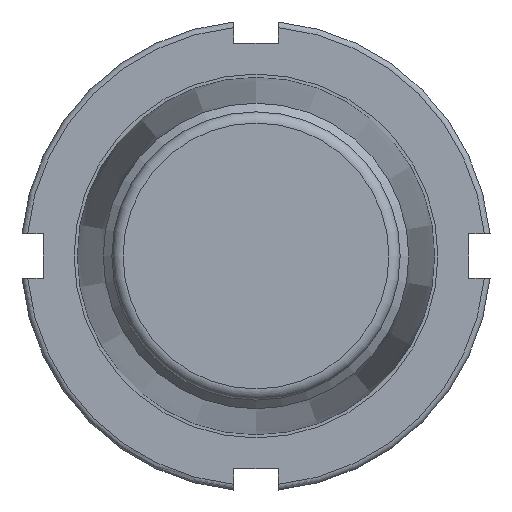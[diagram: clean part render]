
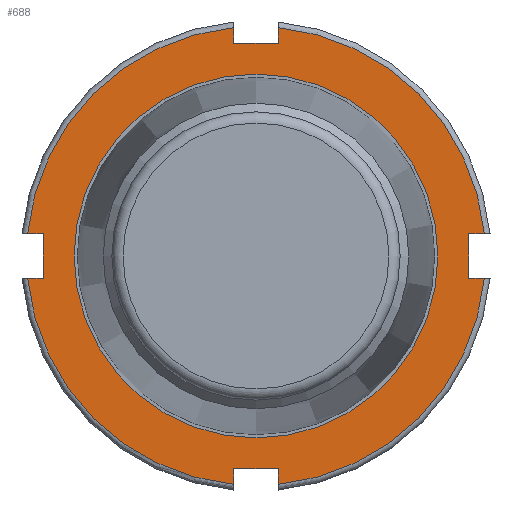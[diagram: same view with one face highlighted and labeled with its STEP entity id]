
A CAD part, front view. The second image highlights one B-rep face of the part: STEP entity #688.
In plain terms, the highlighted planar face has unit normal (0, -1, 0).
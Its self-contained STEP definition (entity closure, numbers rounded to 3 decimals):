
#76=FACE_BOUND('',#153,.T.);
#90=PLANE('',#761);
#112=FACE_OUTER_BOUND('',#152,.T.);
#152=EDGE_LOOP('',(#543,#544,#545,#546,#547,#548,#549,#550,#551,#552,#553,
#554,#555,#556,#557,#558));
#153=EDGE_LOOP('',(#559));
#184=LINE('',#1038,#233);
#188=LINE('',#1091,#237);
#191=LINE('',#1095,#240);
#194=LINE('',#1103,#243);
#198=LINE('',#1156,#247);
#201=LINE('',#1160,#250);
#204=LINE('',#1168,#253);
#208=LINE('',#1221,#257);
#211=LINE('',#1225,#260);
#212=LINE('',#1232,#261);
#213=LINE('',#1234,#262);
#214=LINE('',#1236,#263);
#233=VECTOR('',#851,10.);
#237=VECTOR('',#857,10.);
#240=VECTOR('',#862,10.);
#243=VECTOR('',#867,10.);
#247=VECTOR('',#873,10.);
#250=VECTOR('',#878,10.);
#253=VECTOR('',#883,10.);
#257=VECTOR('',#889,10.);
#260=VECTOR('',#894,10.);
#261=VECTOR('',#903,10.);
#262=VECTOR('',#904,10.);
#263=VECTOR('',#905,10.);
#287=CIRCLE('',#762,41.);
#288=CIRCLE('',#763,41.);
#289=CIRCLE('',#764,41.);
#290=CIRCLE('',#765,41.);
#291=CIRCLE('',#766,32.5);
#320=VERTEX_POINT('',#1035);
#321=VERTEX_POINT('',#1037);
#328=VERTEX_POINT('',#1079);
#329=VERTEX_POINT('',#1090);
#332=VERTEX_POINT('',#1100);
#333=VERTEX_POINT('',#1102);
#340=VERTEX_POINT('',#1144);
#341=VERTEX_POINT('',#1155);
#344=VERTEX_POINT('',#1165);
#345=VERTEX_POINT('',#1167);
#352=VERTEX_POINT('',#1209);
#353=VERTEX_POINT('',#1220);
#354=VERTEX_POINT('',#1229);
#355=VERTEX_POINT('',#1231);
#356=VERTEX_POINT('',#1233);
#357=VERTEX_POINT('',#1235);
#358=VERTEX_POINT('',#1238);
#389=EDGE_CURVE('',#321,#320,#184,.T.);
#397=EDGE_CURVE('',#329,#328,#188,.T.);
#400=EDGE_CURVE('',#320,#329,#191,.T.);
#403=EDGE_CURVE('',#333,#332,#194,.T.);
#411=EDGE_CURVE('',#341,#340,#198,.T.);
#414=EDGE_CURVE('',#332,#341,#201,.T.);
#417=EDGE_CURVE('',#345,#344,#204,.T.);
#425=EDGE_CURVE('',#353,#352,#208,.T.);
#428=EDGE_CURVE('',#344,#353,#211,.T.);
#429=EDGE_CURVE('',#333,#328,#287,.T.);
#430=EDGE_CURVE('',#345,#340,#288,.T.);
#431=EDGE_CURVE('',#354,#352,#289,.T.);
#432=EDGE_CURVE('',#354,#355,#212,.T.);
#433=EDGE_CURVE('',#355,#356,#213,.T.);
#434=EDGE_CURVE('',#356,#357,#214,.T.);
#435=EDGE_CURVE('',#321,#357,#290,.T.);
#436=EDGE_CURVE('',#358,#358,#291,.T.);
#543=ORIENTED_EDGE('',*,*,#389,.T.);
#544=ORIENTED_EDGE('',*,*,#400,.T.);
#545=ORIENTED_EDGE('',*,*,#397,.T.);
#546=ORIENTED_EDGE('',*,*,#429,.F.);
#547=ORIENTED_EDGE('',*,*,#403,.T.);
#548=ORIENTED_EDGE('',*,*,#414,.T.);
#549=ORIENTED_EDGE('',*,*,#411,.T.);
#550=ORIENTED_EDGE('',*,*,#430,.F.);
#551=ORIENTED_EDGE('',*,*,#417,.T.);
#552=ORIENTED_EDGE('',*,*,#428,.T.);
#553=ORIENTED_EDGE('',*,*,#425,.T.);
#554=ORIENTED_EDGE('',*,*,#431,.F.);
#555=ORIENTED_EDGE('',*,*,#432,.T.);
#556=ORIENTED_EDGE('',*,*,#433,.T.);
#557=ORIENTED_EDGE('',*,*,#434,.T.);
#558=ORIENTED_EDGE('',*,*,#435,.F.);
#559=ORIENTED_EDGE('',*,*,#436,.T.);
#688=ADVANCED_FACE('',(#112,#76),#90,.T.);
#761=AXIS2_PLACEMENT_3D('',#1226,#895,#896);
#762=AXIS2_PLACEMENT_3D('',#1227,#897,#898);
#763=AXIS2_PLACEMENT_3D('',#1228,#899,#900);
#764=AXIS2_PLACEMENT_3D('',#1230,#901,#902);
#765=AXIS2_PLACEMENT_3D('',#1237,#906,#907);
#766=AXIS2_PLACEMENT_3D('',#1239,#908,#909);
#851=DIRECTION('',(1.,0.,0.));
#857=DIRECTION('',(-1.,0.,0.));
#862=DIRECTION('',(0.,0.,-1.));
#867=DIRECTION('',(0.,0.,1.));
#873=DIRECTION('',(0.,0.,-1.));
#878=DIRECTION('',(1.,0.,0.));
#883=DIRECTION('',(-1.,0.,0.));
#889=DIRECTION('',(1.,0.,0.));
#894=DIRECTION('',(0.,0.,1.));
#895=DIRECTION('center_axis',(0.,-1.,0.));
#896=DIRECTION('ref_axis',(0.,0.,-1.));
#897=DIRECTION('center_axis',(0.,1.,0.));
#898=DIRECTION('ref_axis',(0.,0.,-1.));
#899=DIRECTION('center_axis',(0.,1.,0.));
#900=DIRECTION('ref_axis',(0.,0.,-1.));
#901=DIRECTION('center_axis',(0.,1.,0.));
#902=DIRECTION('ref_axis',(0.,0.,-1.));
#903=DIRECTION('',(0.,0.,-1.));
#904=DIRECTION('',(-1.,0.,0.));
#905=DIRECTION('',(0.,0.,1.));
#906=DIRECTION('center_axis',(0.,1.,0.));
#907=DIRECTION('ref_axis',(0.,0.,-1.));
#908=DIRECTION('center_axis',(0.,1.,0.));
#909=DIRECTION('ref_axis',(1.,0.,0.));
#1035=CARTESIAN_POINT('',(-38.,192.,4.));
#1037=CARTESIAN_POINT('',(-40.804,192.,4.));
#1038=CARTESIAN_POINT('',(-20.905,192.,4.));
#1079=CARTESIAN_POINT('',(-40.804,192.,-4.));
#1090=CARTESIAN_POINT('',(-38.,192.,-4.));
#1091=CARTESIAN_POINT('',(-19.,192.,-4.));
#1095=CARTESIAN_POINT('',(-38.,192.,23.));
#1100=CARTESIAN_POINT('',(-4.,192.,-38.));
#1102=CARTESIAN_POINT('',(-4.,192.,-40.804));
#1103=CARTESIAN_POINT('',(-4.,192.,0.095));
#1144=CARTESIAN_POINT('',(4.,192.,-40.804));
#1155=CARTESIAN_POINT('',(4.,192.,-38.));
#1156=CARTESIAN_POINT('',(4.,192.,2.));
#1160=CARTESIAN_POINT('',(-2.,192.,-38.));
#1165=CARTESIAN_POINT('',(38.,192.,-4.));
#1167=CARTESIAN_POINT('',(40.804,192.,-4.));
#1168=CARTESIAN_POINT('',(20.905,192.,-4.));
#1209=CARTESIAN_POINT('',(40.804,192.,4.));
#1220=CARTESIAN_POINT('',(38.,192.,4.));
#1221=CARTESIAN_POINT('',(19.,192.,4.));
#1225=CARTESIAN_POINT('',(38.,192.,19.));
#1226=CARTESIAN_POINT('Origin',(0.,192.,42.));
#1227=CARTESIAN_POINT('Origin',(0.,192.,0.));
#1228=CARTESIAN_POINT('Origin',(0.,192.,0.));
#1229=CARTESIAN_POINT('',(4.,192.,40.804));
#1230=CARTESIAN_POINT('Origin',(0.,192.,0.));
#1231=CARTESIAN_POINT('',(4.,192.,38.));
#1232=CARTESIAN_POINT('',(4.,192.,41.905));
#1233=CARTESIAN_POINT('',(-4.,192.,38.));
#1234=CARTESIAN_POINT('',(2.,192.,38.));
#1235=CARTESIAN_POINT('',(-4.,192.,40.804));
#1236=CARTESIAN_POINT('',(-4.,192.,40.));
#1237=CARTESIAN_POINT('Origin',(0.,192.,0.));
#1238=CARTESIAN_POINT('',(0.,192.,-32.5));
#1239=CARTESIAN_POINT('Origin',(0.,192.,0.));
